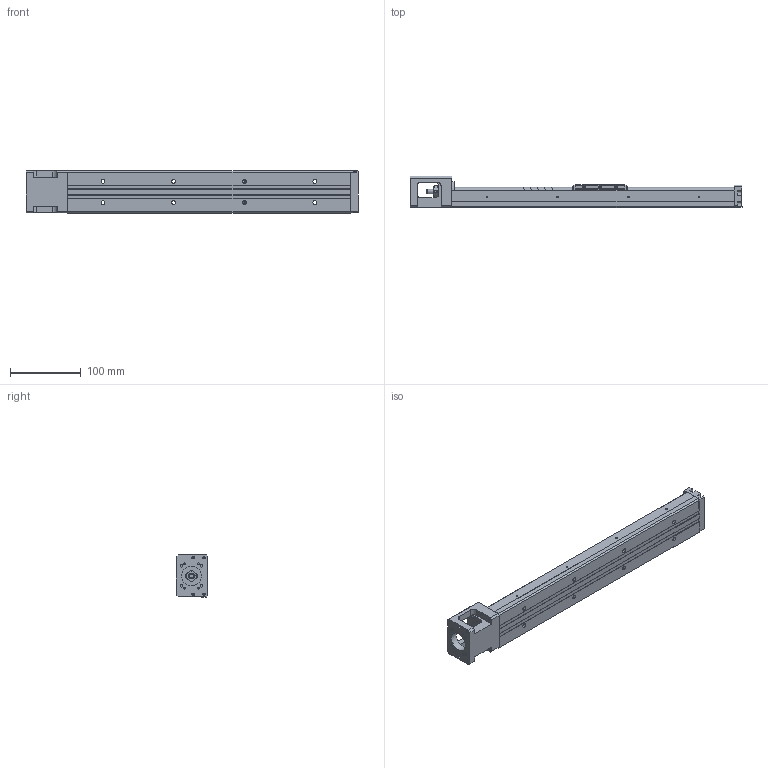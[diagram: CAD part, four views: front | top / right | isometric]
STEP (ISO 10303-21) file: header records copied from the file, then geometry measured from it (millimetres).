
FILE_DESCRIPTION(/* description */ (''),/* implementation_level */ '2;1');
FILE_NAME(/* name */ 'KP33N-400C02-1.stp',/* time_stamp */ '2020-07-01T11:38:56+08:00',/* author */ (''),/* organization */ (''),/* preprocessor_version */ 'ST-DEVELOPER v14',/* originating_system */ 'SIEMENS PLM Software NX 8.0',/* authorisation */ '');
FILE_SCHEMA (('AUTOMOTIVE_DESIGN { 1 0 10303 214 3 1 1 1 }'));
Length unit declared in the file: millimetre
Products named in the file (1): model1
Bounding box: 470 x 44.45 x 60 mm (x, y, z)
Volume: 519211.6 mm3; surface area: 145936.8 mm2
Topology: 5 solids, 14 shells, 648 faces, 1645 edges, 1084 vertices
Faces by surface type: plane 379, cylinder 186, bspline 31, cone 22, extrusion 21, torus 7, sphere 2
Full cylindrical faces by diameter (mm): 1.6 x4, 1.65 x4, 2.15 x4, 2.42 x4, 2.45 x2, 2.5 x12, 3 x3, 3.2 x4, 3.3 x4, 3.4 x3, 3.5 x10, 3.969 x1, 4 x6, 4.001 x1, 4.135 x4, 5.5 x8, 6 x5, 7.6 x1, 8 x5, 9.5 x8, 10.72 x3, 11.8 x2, 12 x6, 12.8 x1, 13 x2, 14 x1, 16 x4, 21.5 x1, 28 x1
Entity records: 30010 total; most frequent: CARTESIAN_POINT 15241, DIRECTION 2961, ORIENTED_EDGE 2860, EDGE_CURVE 1430, AXIS2_PLACEMENT_3D 1052, VERTEX_POINT 1012, EDGE_LOOP 914, VECTOR 857
